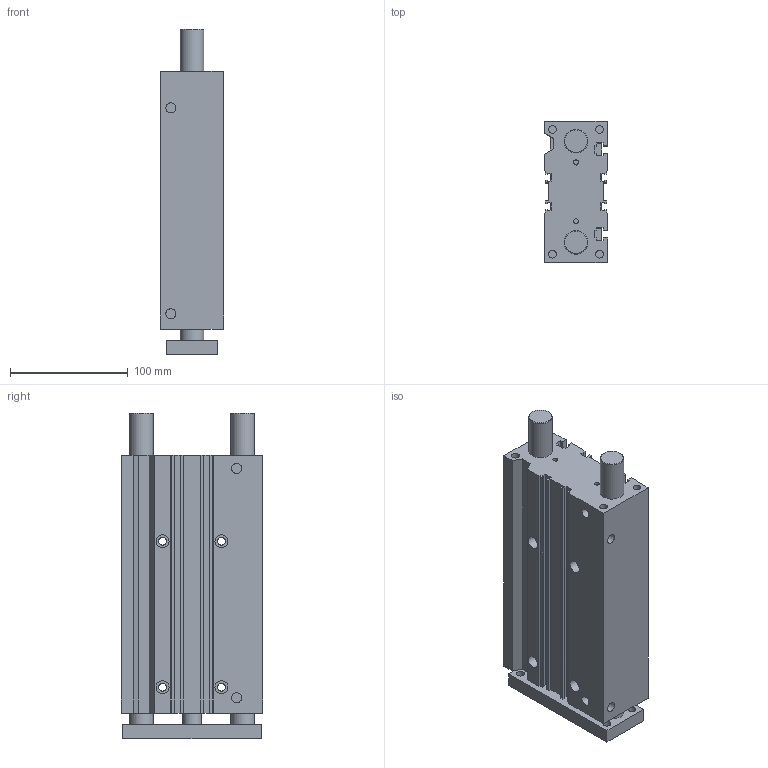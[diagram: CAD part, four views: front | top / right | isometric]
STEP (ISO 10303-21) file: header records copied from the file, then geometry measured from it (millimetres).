
FILE_DESCRIPTION((''),'2;1');
FILE_NAME('I:\Area Tecnica\Disegni\VARIE-3D\Componenti\6100\6100 Ø20-63\6100_##_###_#\6100400175B.stp','2012-01-11T09:05:53',('airolcr1'),(''),'Autodesk Inventor 2012','Autodesk Inventor 2012','');
FILE_SCHEMA(('AUTOMOTIVE_DESIGN { 1 0 10303 214 1 1 1 1 }'));
Length unit declared in the file: millimetre
Products named in the file (3): 6100400175B; CORPO Ø40 C175 B; PIASTRA Ø40 C175 B
Assembly tree (2 placements, depth 2):
  6100400175B
    CORPO Ø40 C175 B
    PIASTRA Ø40 C175 B
Bounding box: 54 x 120 x 277 mm (x, y, z)
Volume: 1395866.3 mm3; surface area: 210654.9 mm2
Topology: 2 solids, 2 shells, 166 faces, 417 edges, 277 vertices
Faces by surface type: plane 126, cylinder 38, cone 2
Full cylindrical faces by diameter (mm): 4 x6, 6.647 x8, 6.65 x4, 8.566 x4, 11 x4, 16 x2, 20 x4
Entity records: 5013 total; most frequent: CARTESIAN_POINT 815, DIRECTION 798, ORIENTED_EDGE 750, EDGE_CURVE 375, VECTOR 294, LINE 294, VERTEX_POINT 269, AXIS2_PLACEMENT_3D 252
